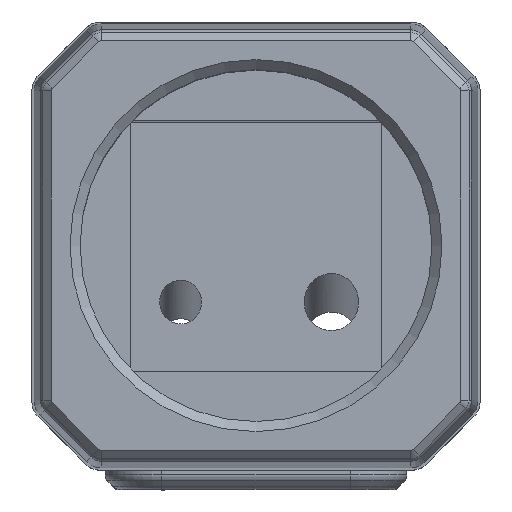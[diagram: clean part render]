
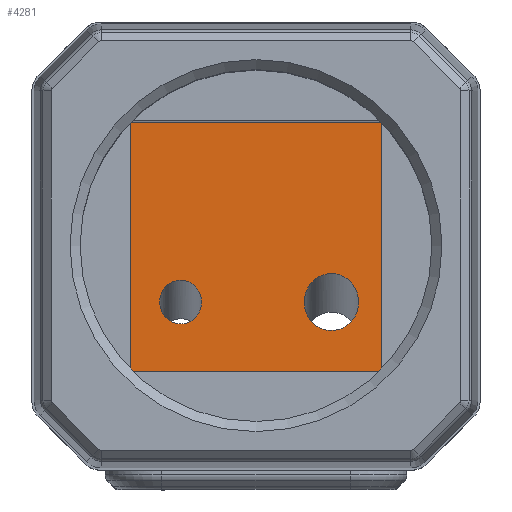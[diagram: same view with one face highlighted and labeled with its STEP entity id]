
A CAD part, top view. The second image highlights one B-rep face of the part: STEP entity #4281.
In plain terms, the highlighted planar face has unit normal (0, 0, 1).
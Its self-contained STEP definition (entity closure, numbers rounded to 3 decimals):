
#223 = CARTESIAN_POINT ( 'NONE',  ( 9., -9.883, -148.8 ) ) ;
#229 = PLANE ( 'NONE',  #1815 ) ;
#249 = DIRECTION ( 'NONE',  ( 0., -1., 0. ) ) ;
#390 = LINE ( 'NONE', #3193, #6889 ) ;
#417 = CARTESIAN_POINT ( 'NONE',  ( -4., -3.87, -148.8 ) ) ;
#531 = ORIENTED_EDGE ( 'NONE', *, *, #2117, .T. ) ;
#666 = VECTOR ( 'NONE', #6489, 1000. ) ;
#1275 = CARTESIAN_POINT ( 'NONE',  ( -15., 15., -148.8 ) ) ;
#1371 = DIRECTION ( 'NONE',  ( 0., 0., -1. ) ) ;
#1419 = CARTESIAN_POINT ( 'NONE',  ( 15., -15., -148.8 ) ) ;
#1550 = EDGE_LOOP ( 'NONE', ( #6799 ) ) ;
#1686 = VERTEX_POINT ( 'NONE', #4524 ) ;
#1815 = AXIS2_PLACEMENT_3D ( 'NONE', #2475, #1371, #4981 ) ;
#1902 = ORIENTED_EDGE ( 'NONE', *, *, #4308, .T. ) ;
#2076 = CARTESIAN_POINT ( 'NONE',  ( -9., -3.87, -148.8 ) ) ;
#2117 = EDGE_CURVE ( 'NONE', #7342, #3652, #3820, .T. ) ;
#2275 = VECTOR ( 'NONE', #249, 1000. ) ;
#2368 = EDGE_CURVE ( 'NONE', #2993, #2401, #390, .T. ) ;
#2401 = VERTEX_POINT ( 'NONE', #6860 ) ;
#2470 = CARTESIAN_POINT ( 'NONE',  ( 2.5, -9.883, -148.8 ) ) ;
#2475 = CARTESIAN_POINT ( 'NONE',  ( 0., 0., -148.8 ) ) ;
#2657 = CARTESIAN_POINT ( 'NONE',  ( 15., 15., -148.8 ) ) ;
#2760 = CARTESIAN_POINT ( 'NONE',  ( 9., -9.883, -148.8 ) ) ;
#2993 = VERTEX_POINT ( 'NONE', #3244 ) ;
#3033 = FACE_BOUND ( 'NONE', #6397, .T. ) ;
#3193 = CARTESIAN_POINT ( 'NONE',  ( 15., 15., -148.8 ) ) ;
#3244 = CARTESIAN_POINT ( 'NONE',  ( 15., 15., -148.8 ) ) ;
#3318 = CARTESIAN_POINT ( 'NONE',  ( -9., -9.098, -148.8 ) ) ;
#3325 = EDGE_CURVE ( 'NONE', #2401, #7342, #5868, .T. ) ;
#3412 = ORIENTED_EDGE ( 'NONE', *, *, #5668, .T. ) ;
#3497 = CARTESIAN_POINT ( 'NONE',  ( 15., -15., -148.8 ) ) ;
#3652 = VERTEX_POINT ( 'NONE', #3497 ) ;
#3687 = LINE ( 'NONE', #2657, #666 ) ;
#3820 = LINE ( 'NONE', #1419, #4855 ) ;
#3864 = CARTESIAN_POINT ( 'NONE',  ( -9., -9.098, -148.8 ) ) ;
#4133 = CARTESIAN_POINT ( 'NONE',  ( 9., -9.883, -148.8 ) ) ;
#4281 = ADVANCED_FACE ( 'NONE', ( #3033, #4289, #5279 ), #229, .F. ) ;
#4289 = FACE_BOUND ( 'NONE', #1550, .T. ) ;
#4308 = EDGE_CURVE ( 'NONE', #1686, #1686, #7348, .T. ) ;
#4423 = CARTESIAN_POINT ( 'NONE',  ( -15., -15., -148.8 ) ) ;
#4524 = CARTESIAN_POINT ( 'NONE',  ( -9., -9.098, -148.8 ) ) ;
#4834 = CARTESIAN_POINT ( 'NONE',  ( 9., -3.086, -148.8 ) ) ;
#4855 = VECTOR ( 'NONE', #6318, 1000. ) ;
#4925 = DIRECTION ( 'NONE',  ( -1., 0., 0. ) ) ;
#4981 = DIRECTION ( 'NONE',  ( -1., 0., 0. ) ) ;
#5013 = CARTESIAN_POINT ( 'NONE',  ( -14., -9.098, -148.8 ) ) ;
#5279 = FACE_OUTER_BOUND ( 'NONE', #6468, .T. ) ;
#5352 = CARTESIAN_POINT ( 'NONE',  ( 15.5, -9.883, -148.8 ) ) ;
#5432 = ORIENTED_EDGE ( 'NONE', *, *, #2368, .T. ) ;
#5494 =( BOUNDED_CURVE ( )  B_SPLINE_CURVE ( 3, ( #223, #2470, #6451, #4834, #7116, #5352, #4133 ),
 .UNSPECIFIED., .T., .F. ) 
 B_SPLINE_CURVE_WITH_KNOTS ( ( 4, 3, 4 ),
 ( 0., 3.142, 6.283 ),
 .UNSPECIFIED. ) 
 CURVE ( )  GEOMETRIC_REPRESENTATION_ITEM ( )  RATIONAL_B_SPLINE_CURVE ( ( 1., 0.333, 0.333, 1., 0.333, 0.333, 1. ) ) 
 REPRESENTATION_ITEM ( '' )  );
#5668 = EDGE_CURVE ( 'NONE', #3652, #2993, #3687, .T. ) ;
#5868 = LINE ( 'NONE', #1275, #2275 ) ;
#6064 = EDGE_CURVE ( 'NONE', #6772, #6772, #5494, .T. ) ;
#6070 = ORIENTED_EDGE ( 'NONE', *, *, #3325, .T. ) ;
#6079 = CARTESIAN_POINT ( 'NONE',  ( -4., -9.098, -148.8 ) ) ;
#6318 = DIRECTION ( 'NONE',  ( 1., 0., 0. ) ) ;
#6397 = EDGE_LOOP ( 'NONE', ( #1902 ) ) ;
#6451 = CARTESIAN_POINT ( 'NONE',  ( 2.5, -3.086, -148.8 ) ) ;
#6468 = EDGE_LOOP ( 'NONE', ( #6070, #531, #3412, #5432 ) ) ;
#6489 = DIRECTION ( 'NONE',  ( 0., 1., 0. ) ) ;
#6709 = CARTESIAN_POINT ( 'NONE',  ( -14., -3.87, -148.8 ) ) ;
#6772 = VERTEX_POINT ( 'NONE', #2760 ) ;
#6799 = ORIENTED_EDGE ( 'NONE', *, *, #6064, .T. ) ;
#6860 = CARTESIAN_POINT ( 'NONE',  ( -15., 15., -148.8 ) ) ;
#6889 = VECTOR ( 'NONE', #4925, 1000. ) ;
#7116 = CARTESIAN_POINT ( 'NONE',  ( 15.5, -3.086, -148.8 ) ) ;
#7342 = VERTEX_POINT ( 'NONE', #4423 ) ;
#7348 =( BOUNDED_CURVE ( )  B_SPLINE_CURVE ( 3, ( #3318, #5013, #6709, #2076, #417, #6079, #3864 ),
 .UNSPECIFIED., .T., .F. ) 
 B_SPLINE_CURVE_WITH_KNOTS ( ( 4, 3, 4 ),
 ( 0., 3.142, 6.283 ),
 .UNSPECIFIED. ) 
 CURVE ( )  GEOMETRIC_REPRESENTATION_ITEM ( )  RATIONAL_B_SPLINE_CURVE ( ( 1., 0.333, 0.333, 1., 0.333, 0.333, 1. ) ) 
 REPRESENTATION_ITEM ( '' )  );
